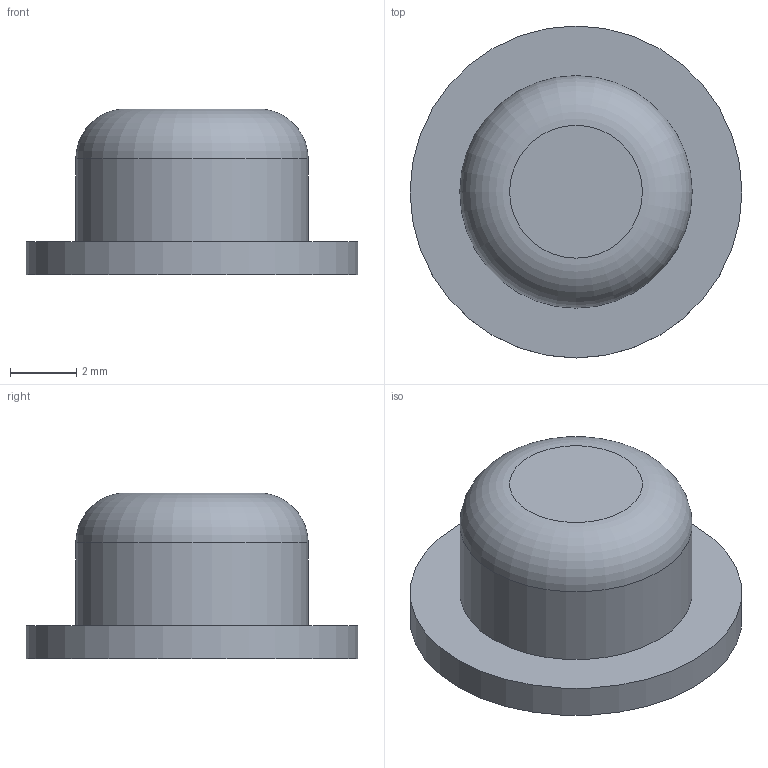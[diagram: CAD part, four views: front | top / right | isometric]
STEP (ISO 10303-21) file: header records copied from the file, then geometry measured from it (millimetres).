
FILE_DESCRIPTION(/* description */ ('STEP AP242','CAx-IF Rec.Pracs.---Representation and Presentation of Product Manufacturing Information (PMI)---4.0---2014-10-13','CAx-IF Rec.Pracs.---3D Tessellated Geometry---0.4---2014-09-14','2;1'),/* implementation_level */ '2;1');
FILE_NAME(/* name */ '6866171fb153ed5436a2d536',/* time_stamp */ '2025-07-03T05:37:36Z',/* author */ (''),/* organization */ (''),/* preprocessor_version */ 'ST-DEVELOPER v20',/* originating_system */ 'ONSHAPE BY PTC INC, 1.200',/* authorisation */ ' ');
FILE_SCHEMA (('AP242_MANAGED_MODEL_BASED_3D_ENGINEERING_MIM_LF { 1 0 10303 442 1 1 4 }'));
Length unit declared in the file: metre
Products named in the file (1): Part 1
Bounding box: 10 x 10 x 5 mm (x, y, z)
Volume: 169.6 mm3; surface area: 315.9 mm2
Topology: 1 solids, 1 shells, 11 faces, 21 edges, 14 vertices
Faces by surface type: plane 8, cylinder 2, torus 1
Full cylindrical faces by diameter (mm): 7 x1, 10 x1
Entity records: 278 total; most frequent: DIRECTION 46, CARTESIAN_POINT 42, ORIENTED_EDGE 34, EDGE_CURVE 17, AXIS2_PLACEMENT_3D 17, EDGE_LOOP 16, FACE_BOUND 16, VERTEX_POINT 13
